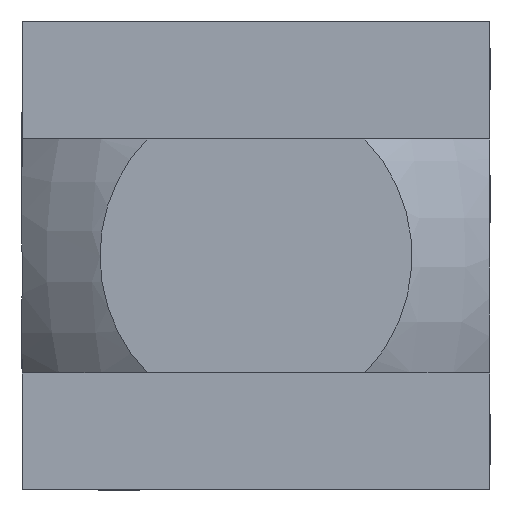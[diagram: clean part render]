
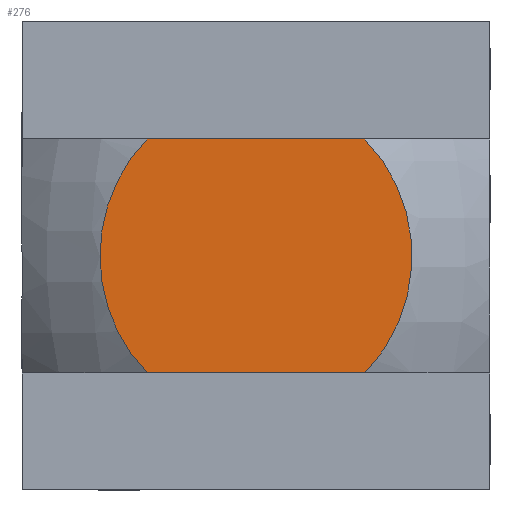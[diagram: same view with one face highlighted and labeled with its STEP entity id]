
A CAD part, left-side view. The second image highlights one B-rep face of the part: STEP entity #276.
In plain terms, the highlighted planar face has unit normal (-1, 0, 0).
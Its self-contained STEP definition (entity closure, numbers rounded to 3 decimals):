
#265 = VERTEX_POINT ( 'NONE', #837 ) ;
#266 = ORIENTED_EDGE ( 'NONE', *, *, #267, .T. ) ;
#267 = EDGE_CURVE ( 'NONE', #278, #268, #836, .T. ) ;
#268 = VERTEX_POINT ( 'NONE', #832 ) ;
#269 = ORIENTED_EDGE ( 'NONE', *, *, #300, .F. ) ;
#270 = VERTEX_POINT ( 'NONE', #831 ) ;
#271 = ORIENTED_EDGE ( 'NONE', *, *, #277, .F. ) ;
#275 = EDGE_LOOP ( 'NONE', ( #271, #266, #269, #302 ) ) ;
#276 = ADVANCED_FACE ( 'NONE', ( #820 ), #819, .T. ) ;
#277 = EDGE_CURVE ( 'NONE', #278, #270, #813, .T. ) ;
#278 = VERTEX_POINT ( 'NONE', #812 ) ;
#300 = EDGE_CURVE ( 'NONE', #265, #268, #941, .T. ) ;
#302 = ORIENTED_EDGE ( 'NONE', *, *, #303, .F. ) ;
#303 = EDGE_CURVE ( 'NONE', #270, #265, #907, .T. ) ;
#811 = CARTESIAN_POINT ( 'NONE',  ( -52.5, -9.28, 10. ) ) ;
#812 = CARTESIAN_POINT ( 'NONE',  ( -52.5, -9.28, 10. ) ) ;
#813 = B_SPLINE_CURVE_WITH_KNOTS ( 'NONE', 3,
 ( #811, #872, #871, #870, #869, #868, #867, #866, #865, #864, #863, #862, #861, #860, #859, #858, #857, #856, #855, #854, #853, #852, #851, #850, #849, #848 ),
 .UNSPECIFIED., .F., .F.,
 ( 4, 2, 2, 2, 2, 2, 2, 2, 2, 2, 2, 2, 4 ),
 ( 0.032, 0.033, 0.034, 0.036, 0.037, 0.04, 0.041, 0.043, 0.045, 0.047, 0.048, 0.051, 0.054 ),
 .UNSPECIFIED. ) ;
#815 = DIRECTION ( 'NONE',  ( 0., 0., 1. ) ) ;
#816 = DIRECTION ( 'NONE',  ( -1., 0., 0. ) ) ;
#817 = CARTESIAN_POINT ( 'NONE',  ( -52.5, 20., -20. ) ) ;
#818 = AXIS2_PLACEMENT_3D ( 'NONE', #817, #816, #815 ) ;
#819 = PLANE ( 'NONE',  #818 ) ;
#820 = FACE_OUTER_BOUND ( 'NONE', #275, .T. ) ;
#831 = CARTESIAN_POINT ( 'NONE',  ( -52.5, -9.28, -10. ) ) ;
#832 = CARTESIAN_POINT ( 'NONE',  ( -52.5, 9.28, 10. ) ) ;
#833 = DIRECTION ( 'NONE',  ( 0., 1., 0. ) ) ;
#834 = VECTOR ( 'NONE', #833, 1000. ) ;
#835 = CARTESIAN_POINT ( 'NONE',  ( -52.5, -20., 10. ) ) ;
#836 = LINE ( 'NONE', #835, #834 ) ;
#837 = CARTESIAN_POINT ( 'NONE',  ( -52.5, 9.28, -10. ) ) ;
#848 = CARTESIAN_POINT ( 'NONE',  ( -52.5, -9.28, -10. ) ) ;
#849 = CARTESIAN_POINT ( 'NONE',  ( -52.5, -9.923, -9.346 ) ) ;
#850 = CARTESIAN_POINT ( 'NONE',  ( -52.5, -10.5, -8.631 ) ) ;
#851 = CARTESIAN_POINT ( 'NONE',  ( -52.5, -11.518, -7.074 ) ) ;
#852 = CARTESIAN_POINT ( 'NONE',  ( -52.5, -11.943, -6.256 ) ) ;
#853 = CARTESIAN_POINT ( 'NONE',  ( -52.5, -12.458, -4.98 ) ) ;
#854 = CARTESIAN_POINT ( 'NONE',  ( -52.5, -12.609, -4.546 ) ) ;
#855 = CARTESIAN_POINT ( 'NONE',  ( -52.5, -12.871, -3.661 ) ) ;
#856 = CARTESIAN_POINT ( 'NONE',  ( -52.5, -12.982, -3.207 ) ) ;
#857 = CARTESIAN_POINT ( 'NONE',  ( -52.5, -13.245, -1.844 ) ) ;
#858 = CARTESIAN_POINT ( 'NONE',  ( -52.5, -13.333, -0.93 ) ) ;
#859 = CARTESIAN_POINT ( 'NONE',  ( -52.5, -13.334, 0.449 ) ) ;
#860 = CARTESIAN_POINT ( 'NONE',  ( -52.5, -13.312, 0.91 ) ) ;
#861 = CARTESIAN_POINT ( 'NONE',  ( -52.5, -13.224, 1.835 ) ) ;
#862 = CARTESIAN_POINT ( 'NONE',  ( -52.5, -13.158, 2.295 ) ) ;
#863 = CARTESIAN_POINT ( 'NONE',  ( -52.5, -12.896, 3.651 ) ) ;
#864 = CARTESIAN_POINT ( 'NONE',  ( -52.5, -12.637, 4.533 ) ) ;
#865 = CARTESIAN_POINT ( 'NONE',  ( -52.5, -12.12, 5.819 ) ) ;
#866 = CARTESIAN_POINT ( 'NONE',  ( -52.5, -11.924, 6.243 ) ) ;
#867 = CARTESIAN_POINT ( 'NONE',  ( -52.5, -11.497, 7.064 ) ) ;
#868 = CARTESIAN_POINT ( 'NONE',  ( -52.5, -11.265, 7.461 ) ) ;
#869 = CARTESIAN_POINT ( 'NONE',  ( -52.5, -10.762, 8.231 ) ) ;
#870 = CARTESIAN_POINT ( 'NONE',  ( -52.5, -10.493, 8.603 ) ) ;
#871 = CARTESIAN_POINT ( 'NONE',  ( -52.5, -9.915, 9.321 ) ) ;
#872 = CARTESIAN_POINT ( 'NONE',  ( -52.5, -9.605, 9.669 ) ) ;
#904 = DIRECTION ( 'NONE',  ( 0., 1., 0. ) ) ;
#905 = VECTOR ( 'NONE', #904, 1000. ) ;
#906 = CARTESIAN_POINT ( 'NONE',  ( -52.5, -20., -10. ) ) ;
#907 = LINE ( 'NONE', #906, #905 ) ;
#908 = CARTESIAN_POINT ( 'NONE',  ( -52.5, 9.28, 10. ) ) ;
#909 = CARTESIAN_POINT ( 'NONE',  ( -52.5, 9.602, 9.673 ) ) ;
#910 = CARTESIAN_POINT ( 'NONE',  ( -52.5, 9.909, 9.328 ) ) ;
#911 = CARTESIAN_POINT ( 'NONE',  ( -52.5, 10.492, 8.603 ) ) ;
#912 = CARTESIAN_POINT ( 'NONE',  ( -52.5, 10.763, 8.23 ) ) ;
#913 = CARTESIAN_POINT ( 'NONE',  ( -52.5, 11.516, 7.076 ) ) ;
#914 = CARTESIAN_POINT ( 'NONE',  ( -52.5, 11.94, 6.263 ) ) ;
#915 = CARTESIAN_POINT ( 'NONE',  ( -52.5, 12.458, 4.979 ) ) ;
#916 = CARTESIAN_POINT ( 'NONE',  ( -52.5, 12.612, 4.538 ) ) ;
#917 = CARTESIAN_POINT ( 'NONE',  ( -52.5, 12.873, 3.652 ) ) ;
#918 = CARTESIAN_POINT ( 'NONE',  ( -52.5, 12.982, 3.206 ) ) ;
#919 = CARTESIAN_POINT ( 'NONE',  ( -52.5, 13.243, 1.855 ) ) ;
#920 = CARTESIAN_POINT ( 'NONE',  ( -52.5, 13.333, 0.941 ) ) ;
#921 = CARTESIAN_POINT ( 'NONE',  ( -52.5, 13.334, -0.919 ) ) ;
#922 = CARTESIAN_POINT ( 'NONE',  ( -52.5, 13.246, -1.84 ) ) ;
#923 = CARTESIAN_POINT ( 'NONE',  ( -52.5, 12.982, -3.208 ) ) ;
#924 = CARTESIAN_POINT ( 'NONE',  ( -52.5, 12.871, -3.659 ) ) ;
#925 = CARTESIAN_POINT ( 'NONE',  ( -52.5, 12.61, -4.542 ) ) ;
#926 = CARTESIAN_POINT ( 'NONE',  ( -52.5, 12.459, -4.976 ) ) ;
#927 = CARTESIAN_POINT ( 'NONE',  ( -52.5, 12.116, -5.827 ) ) ;
#928 = CARTESIAN_POINT ( 'NONE',  ( -52.5, 11.924, -6.245 ) ) ;
#929 = CARTESIAN_POINT ( 'NONE',  ( -52.5, 11.497, -7.064 ) ) ;
#937 = CARTESIAN_POINT ( 'NONE',  ( -52.5, 11.261, -7.467 ) ) ;
#938 = CARTESIAN_POINT ( 'NONE',  ( -52.5, 10.502, -8.628 ) ) ;
#939 = CARTESIAN_POINT ( 'NONE',  ( -52.5, 9.927, -9.343 ) ) ;
#940 = CARTESIAN_POINT ( 'NONE',  ( -52.5, 9.28, -10. ) ) ;
#941 = B_SPLINE_CURVE_WITH_KNOTS ( 'NONE', 3,
 ( #940, #939, #938, #937, #929, #928, #927, #926, #925, #924, #923, #922, #921, #920, #919, #918, #917, #916, #915, #914, #913, #912, #911, #910, #909, #908 ),
 .UNSPECIFIED., .F., .F.,
 ( 4, 2, 2, 2, 2, 2, 2, 2, 2, 2, 2, 2, 4 ),
 ( 0.074, 0.077, 0.078, 0.08, 0.081, 0.082, 0.085, 0.088, 0.089, 0.091, 0.093, 0.095, 0.096 ),
 .UNSPECIFIED. ) ;
